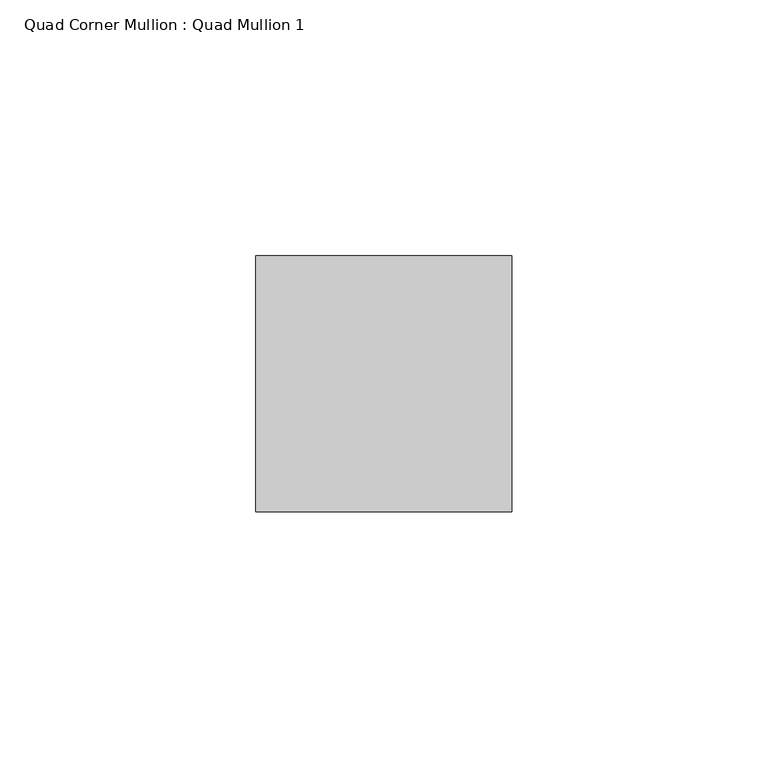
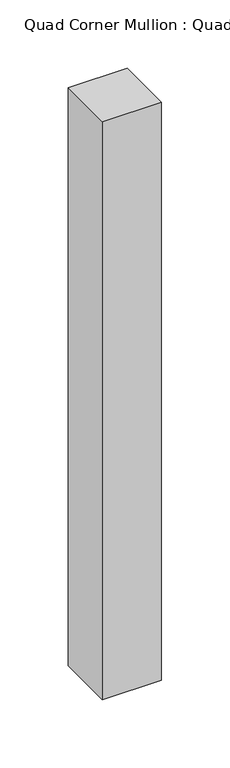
"""IFC4 building model written with IfcOpenShell, lengths in millimetres: member geometry, Quad Corner Mullion : Quad Mullion 1."""

from ifc_helpers import new_model, si_unit, frame, origin, place, context, project, spatial, polyline, outline, extrude, source, transform, mapped, element, save


def quad_corner_mullion_quad_mullion_1_b876bad0(model_context):
    return source(origin(), model_context, "Body", "SweptSolid", [
        extrude(outline(polyline([(25.0, -25.0), (-25.0, -25.0), (-25.0, 25.0), (25.0, 25.0), (25.0, -25.0)])), frame((0.0, 0.0, -516.9756962), z_axis=(0.0, 0.0, 1.0), x_axis=(1.0, 0.0, 0.0)), (0.0, 0.0, 1.0), 516.9756962),
    ])


if __name__ == "__main__":
    model = new_model("IFC4")
    model_context = context("Model", 3, world=origin())
    ifc_project = project(units=[si_unit("LENGTHUNIT", "METRE", prefix="MILLI")], contexts=[model_context])
    site = spatial("IfcSite", under=ifc_project)
    building = spatial("IfcBuilding", under=site)
    placement = place(None, origin())
    quad_corner_mullion_quad_mullion_1_shape = quad_corner_mullion_quad_mullion_1_b876bad0(model_context)
    element("IfcMember", 1, ObjectType="Quad Corner Mullion : Quad Mullion 1", at=placement, inside=building, context=model_context, shape_type="MappedRepresentation", body=[
        mapped(quad_corner_mullion_quad_mullion_1_shape, transform((0.0, 0.0, 0.0), x_axis=(1.0, 0.0, 0.0), y_axis=(0.0, 1.0, 0.0), z_axis=(0.0, 0.0, 1.0))),
    ])
    save(model, "model.ifc")
